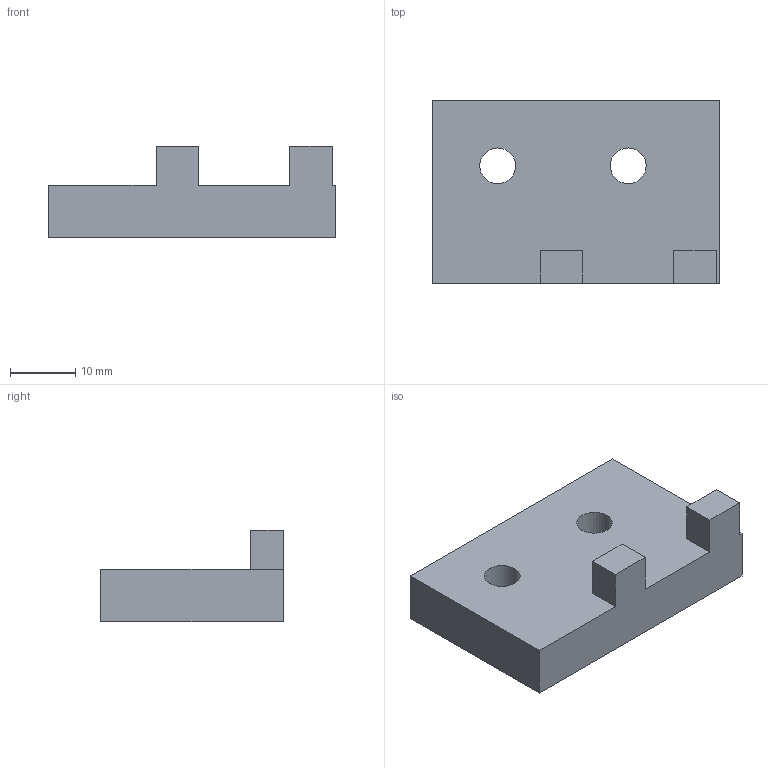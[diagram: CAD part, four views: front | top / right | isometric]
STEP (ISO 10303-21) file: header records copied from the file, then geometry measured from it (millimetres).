
FILE_DESCRIPTION(('Open CASCADE Model'),'2;1');
FILE_NAME('Open CASCADE Shape Model','2026-10-23T08:22:11',('Author'),( 'Open CASCADE'),'Open CASCADE STEP processor 7.9','Open CASCADE 7.9' ,'Unknown');
FILE_SCHEMA(('AUTOMOTIVE_DESIGN { 1 0 10303 214 1 1 1 1 }'));
Length unit declared in the file: millimetre
Products named in the file (1): Open CASCADE STEP translator 7.9 9
Bounding box: 44 x 28 x 14 mm (x, y, z)
Volume: 9537.2 mm3; surface area: 4158.2 mm2
Topology: 1 solids, 1 shells, 20 faces, 48 edges, 32 vertices
Faces by surface type: plane 16, cylinder 4
Full cylindrical faces by diameter (mm): 5.5 x2, 10 x2
Entity records: 1222 total; most frequent: CARTESIAN_POINT 197, DIRECTION 194, LINE 128, VECTOR 128, ORIENTED_EDGE 96, PCURVE 96, DEFINITIONAL_REPRESENTATION 96, EDGE_CURVE 48
